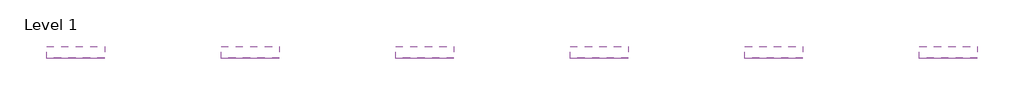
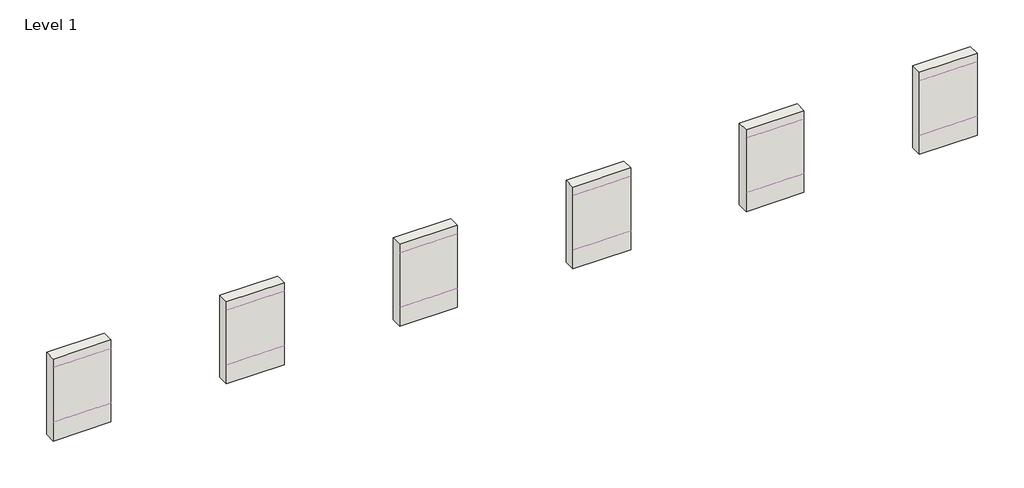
# One storey: 12 coverings, 6 walls.
"""IFC4 building model written with IfcOpenShell, lengths in millimetres."""

from ifc_helpers import new_model, si_unit, point, frame, frame_2d, origin, place, context, project, spatial, polyline, circle_curve, trimmed, segment, composite_curve, outline, extrude, element, save

model = new_model("IFC4")

# Units and contexts
model_context = context("Model", 3, world=origin())
ifc_project = project(units=[si_unit("LENGTHUNIT", "METRE", prefix="MILLI")], contexts=[model_context])

# Site, building, storey
site = spatial("IfcSite", under=ifc_project)
building = spatial("IfcBuilding", under=site)
storey = spatial("IfcBuildingStorey", under=building, Name="Level 1", Elevation=0.0)

# Coverings
placement = place(None, origin())
element("IfcCovering", 1, ObjectType="REVIGRÉS-NORDIK-RB-8X60-MATTRECT-ALMOND", at=placement, inside=storey, context=model_context, shape_type="SweptSolid", body=[
    extrude(outline(composite_curve([segment(polyline([(-6973.1153225, 4350.0), (-6983.6153225, 4350.0), (-6983.6153225, 4419.5)]), True, "CONTINUOUS"), segment(trimmed(circle_curve(frame_2d((-6973.1153225, 4419.5)), 10.5), [point((-6983.6153225, 4419.5))], [point((-6973.1153225, 4430.0))], False, "CARTESIAN"), True, "CONTINUOUS"), segment(polyline([(-6973.1153225, 4430.0), (-6973.1153225, 4350.0)]), True, "CONTINUOUS")], self_intersect=False)), frame((5092.0023157, 0.0, 0.0), z_axis=(1.0, 0.0, 0.0), x_axis=(0.0, 1.0, 0.0)), (0.0, 0.0, 1.0), 1000.0),
])
element("IfcCovering", 2, ObjectType="REVIGRÉS-NORDIK-RB-8X120-MATTRECT-ALMOND", at=placement, inside=storey, context=model_context, shape_type="SweptSolid", body=[
    extrude(outline(composite_curve([segment(polyline([(-6973.1153225, 3350.0), (-6983.6153225, 3350.0), (-6983.6153225, 3419.5)]), True, "CONTINUOUS"), segment(trimmed(circle_curve(frame_2d((-6973.1153225, 3419.5)), 10.5), [point((-6983.6153225, 3419.5))], [point((-6973.1153225, 3430.0))], False, "CARTESIAN"), True, "CONTINUOUS"), segment(polyline([(-6973.1153225, 3430.0), (-6973.1153225, 3350.0)]), True, "CONTINUOUS")], self_intersect=False)), frame((5092.0023157, 0.0, 0.0), z_axis=(1.0, 0.0, 0.0), x_axis=(0.0, 1.0, 0.0)), (0.0, 0.0, 1.0), 1000.0),
])
element("IfcCovering", 3, ObjectType="REVIGRÉS-NORDIK-RB-8X60-MATTRECT-CHERRY", at=placement, inside=storey, context=model_context, shape_type="SweptSolid", body=[
    extrude(outline(composite_curve([segment(polyline([(-6973.1153225, 4350.0), (-6983.6153225, 4350.0), (-6983.6153225, 4419.5)]), True, "CONTINUOUS"), segment(trimmed(circle_curve(frame_2d((-6973.1153225, 4419.5)), 10.5), [point((-6983.6153225, 4419.5))], [point((-6973.1153225, 4430.0))], False, "CARTESIAN"), True, "CONTINUOUS"), segment(polyline([(-6973.1153225, 4430.0), (-6973.1153225, 4350.0)]), True, "CONTINUOUS")], self_intersect=False)), frame((8092.0023157, 0.0, 0.0), z_axis=(1.0, 0.0, 0.0), x_axis=(0.0, 1.0, 0.0)), (0.0, 0.0, 1.0), 1000.0),
])
element("IfcCovering", 4, ObjectType="REVIGRÉS-NORDIK-RB-8X120-MATTRECT-CHERRY", at=placement, inside=storey, context=model_context, shape_type="SweptSolid", body=[
    extrude(outline(composite_curve([segment(polyline([(-6973.1153225, 3350.0), (-6983.6153225, 3350.0), (-6983.6153225, 3419.5)]), True, "CONTINUOUS"), segment(trimmed(circle_curve(frame_2d((-6973.1153225, 3419.5)), 10.5), [point((-6983.6153225, 3419.5))], [point((-6973.1153225, 3430.0))], False, "CARTESIAN"), True, "CONTINUOUS"), segment(polyline([(-6973.1153225, 3430.0), (-6973.1153225, 3350.0)]), True, "CONTINUOUS")], self_intersect=False)), frame((8092.0023157, 0.0, 0.0), z_axis=(1.0, 0.0, 0.0), x_axis=(0.0, 1.0, 0.0)), (0.0, 0.0, 1.0), 1000.0),
])
element("IfcCovering", 5, ObjectType="REVIGRÉS-NORDIK-RB-8X60-MATTRECT-HONEY", at=placement, inside=storey, context=model_context, shape_type="SweptSolid", body=[
    extrude(outline(composite_curve([segment(polyline([(-6973.1153225, 4350.0), (-6983.6153225, 4350.0), (-6983.6153225, 4419.5)]), True, "CONTINUOUS"), segment(trimmed(circle_curve(frame_2d((-6973.1153225, 4419.5)), 10.5), [point((-6983.6153225, 4419.5))], [point((-6973.1153225, 4430.0))], False, "CARTESIAN"), True, "CONTINUOUS"), segment(polyline([(-6973.1153225, 4430.0), (-6973.1153225, 4350.0)]), True, "CONTINUOUS")], self_intersect=False)), frame((11092.0023157, 0.0, 0.0), z_axis=(1.0, 0.0, 0.0), x_axis=(0.0, 1.0, 0.0)), (0.0, 0.0, 1.0), 1000.0),
])
element("IfcCovering", 6, ObjectType="REVIGRÉS-NORDIK-RB-8X120-MATTRECT-HONEY", at=placement, inside=storey, context=model_context, shape_type="SweptSolid", body=[
    extrude(outline(composite_curve([segment(polyline([(-6973.1153225, 3350.0), (-6983.6153225, 3350.0), (-6983.6153225, 3419.5)]), True, "CONTINUOUS"), segment(trimmed(circle_curve(frame_2d((-6973.1153225, 3419.5)), 10.5), [point((-6983.6153225, 3419.5))], [point((-6973.1153225, 3430.0))], False, "CARTESIAN"), True, "CONTINUOUS"), segment(polyline([(-6973.1153225, 3430.0), (-6973.1153225, 3350.0)]), True, "CONTINUOUS")], self_intersect=False)), frame((11092.0023157, 0.0, 0.0), z_axis=(1.0, 0.0, 0.0), x_axis=(0.0, 1.0, 0.0)), (0.0, 0.0, 1.0), 1000.0),
])
element("IfcCovering", 7, ObjectType="REVIGRÉS-NORDIK-RB-8X60-MATTRECT-TAUPE", at=placement, inside=storey, context=model_context, shape_type="SweptSolid", body=[
    extrude(outline(composite_curve([segment(polyline([(-6973.1153225, 4350.0), (-6983.6153225, 4350.0), (-6983.6153225, 4419.5)]), True, "CONTINUOUS"), segment(trimmed(circle_curve(frame_2d((-6973.1153225, 4419.5)), 10.5), [point((-6983.6153225, 4419.5))], [point((-6973.1153225, 4430.0))], False, "CARTESIAN"), True, "CONTINUOUS"), segment(polyline([(-6973.1153225, 4430.0), (-6973.1153225, 4350.0)]), True, "CONTINUOUS")], self_intersect=False)), frame((14092.0023157, 0.0, 0.0), z_axis=(1.0, 0.0, 0.0), x_axis=(0.0, 1.0, 0.0)), (0.0, 0.0, 1.0), 1000.0),
])
element("IfcCovering", 8, ObjectType="REVIGRÉS-NORDIK-RB-8X120-MATTRECT-TAUPE", at=placement, inside=storey, context=model_context, shape_type="SweptSolid", body=[
    extrude(outline(composite_curve([segment(polyline([(-6973.1153225, 3350.0), (-6983.6153225, 3350.0), (-6983.6153225, 3419.5)]), True, "CONTINUOUS"), segment(trimmed(circle_curve(frame_2d((-6973.1153225, 3419.5)), 10.5), [point((-6983.6153225, 3419.5))], [point((-6973.1153225, 3430.0))], False, "CARTESIAN"), True, "CONTINUOUS"), segment(polyline([(-6973.1153225, 3430.0), (-6973.1153225, 3350.0)]), True, "CONTINUOUS")], self_intersect=False)), frame((14092.0023157, 0.0, 0.0), z_axis=(1.0, 0.0, 0.0), x_axis=(0.0, 1.0, 0.0)), (0.0, 0.0, 1.0), 1000.0),
])
element("IfcCovering", 9, ObjectType="REVIGRÉS-NORDIK-RB-8X60-MATTRECT-WALNUT", at=placement, inside=storey, context=model_context, shape_type="SweptSolid", body=[
    extrude(outline(composite_curve([segment(polyline([(-6973.1153225, 4350.0), (-6983.6153225, 4350.0), (-6983.6153225, 4419.5)]), True, "CONTINUOUS"), segment(trimmed(circle_curve(frame_2d((-6973.1153225, 4419.5)), 10.5), [point((-6983.6153225, 4419.5))], [point((-6973.1153225, 4430.0))], False, "CARTESIAN"), True, "CONTINUOUS"), segment(polyline([(-6973.1153225, 4430.0), (-6973.1153225, 4350.0)]), True, "CONTINUOUS")], self_intersect=False)), frame((17092.0023157, 0.0, 0.0), z_axis=(1.0, 0.0, 0.0), x_axis=(0.0, 1.0, 0.0)), (0.0, 0.0, 1.0), 1000.0),
])
element("IfcCovering", 10, ObjectType="REVIGRÉS-NORDIK-RB-8X120-MATTRECT-WALNUT", at=placement, inside=storey, context=model_context, shape_type="SweptSolid", body=[
    extrude(outline(composite_curve([segment(polyline([(-6973.1153225, 3350.0), (-6983.6153225, 3350.0), (-6983.6153225, 3419.5)]), True, "CONTINUOUS"), segment(trimmed(circle_curve(frame_2d((-6973.1153225, 3419.5)), 10.5), [point((-6983.6153225, 3419.5))], [point((-6973.1153225, 3430.0))], False, "CARTESIAN"), True, "CONTINUOUS"), segment(polyline([(-6973.1153225, 3430.0), (-6973.1153225, 3350.0)]), True, "CONTINUOUS")], self_intersect=False)), frame((17092.0023157, 0.0, 0.0), z_axis=(1.0, 0.0, 0.0), x_axis=(0.0, 1.0, 0.0)), (0.0, 0.0, 1.0), 1000.0),
])
element("IfcCovering", 11, ObjectType="REVIGRÉS-NORDIK-RB-8X60-MATTRECT-WHITE", at=placement, inside=storey, context=model_context, shape_type="SweptSolid", body=[
    extrude(outline(composite_curve([segment(polyline([(-6973.1153225, 4350.0), (-6983.6153225, 4350.0), (-6983.6153225, 4419.5)]), True, "CONTINUOUS"), segment(trimmed(circle_curve(frame_2d((-6973.1153225, 4419.5)), 10.5), [point((-6983.6153225, 4419.5))], [point((-6973.1153225, 4430.0))], False, "CARTESIAN"), True, "CONTINUOUS"), segment(polyline([(-6973.1153225, 4430.0), (-6973.1153225, 4350.0)]), True, "CONTINUOUS")], self_intersect=False)), frame((20092.0023157, 0.0, 0.0), z_axis=(1.0, 0.0, 0.0), x_axis=(0.0, 1.0, 0.0)), (0.0, 0.0, 1.0), 1000.0),
])
element("IfcCovering", 12, ObjectType="REVIGRÉS-NORDIK-RB-8X120-MATTRECT-WHITE", at=placement, inside=storey, context=model_context, shape_type="SweptSolid", body=[
    extrude(outline(composite_curve([segment(polyline([(-6973.1153225, 3350.0), (-6983.6153225, 3350.0), (-6983.6153225, 3419.5)]), True, "CONTINUOUS"), segment(trimmed(circle_curve(frame_2d((-6973.1153225, 3419.5)), 10.5), [point((-6983.6153225, 3419.5))], [point((-6973.1153225, 3430.0))], False, "CARTESIAN"), True, "CONTINUOUS"), segment(polyline([(-6973.1153225, 3430.0), (-6973.1153225, 3350.0)]), True, "CONTINUOUS")], self_intersect=False)), frame((20092.0023157, 0.0, 0.0), z_axis=(1.0, 0.0, 0.0), x_axis=(0.0, 1.0, 0.0)), (0.0, 0.0, 1.0), 1000.0),
])

# Walls
element("IfcWall", 13, ObjectType="Wall 1", at=placement, inside=storey, context=model_context, shape_type="SweptSolid", body=[
    extrude(outline(polyline([(6092.0023157, -6973.1153225), (5092.0023157, -6973.1153225), (5092.0023157, -6773.1153225), (6092.0023157, -6773.1153225), (6092.0023157, -6973.1153225)])), frame((0.0, 0.0, 3000.0), z_axis=(0.0, 0.0, 1.0), x_axis=(1.0, 0.0, 0.0)), (0.0, 0.0, 1.0), 1500.0),
])
element("IfcWall", 14, ObjectType="Wall 1", at=placement, inside=storey, context=model_context, shape_type="SweptSolid", body=[
    extrude(outline(polyline([(9092.0023157, -6973.1153225), (8092.0023157, -6973.1153225), (8092.0023157, -6773.1153225), (9092.0023157, -6773.1153225), (9092.0023157, -6973.1153225)])), frame((0.0, 0.0, 3000.0), z_axis=(0.0, 0.0, 1.0), x_axis=(1.0, 0.0, 0.0)), (0.0, 0.0, 1.0), 1500.0),
])
element("IfcWall", 15, ObjectType="Wall 1", at=placement, inside=storey, context=model_context, shape_type="SweptSolid", body=[
    extrude(outline(polyline([(12092.0023157, -6973.1153225), (11092.0023157, -6973.1153225), (11092.0023157, -6773.1153225), (12092.0023157, -6773.1153225), (12092.0023157, -6973.1153225)])), frame((0.0, 0.0, 3000.0), z_axis=(0.0, 0.0, 1.0), x_axis=(1.0, 0.0, 0.0)), (0.0, 0.0, 1.0), 1500.0),
])
element("IfcWall", 16, ObjectType="Wall 1", at=placement, inside=storey, context=model_context, shape_type="SweptSolid", body=[
    extrude(outline(polyline([(15092.0023157, -6973.1153225), (14092.0023157, -6973.1153225), (14092.0023157, -6773.1153225), (15092.0023157, -6773.1153225), (15092.0023157, -6973.1153225)])), frame((0.0, 0.0, 3000.0), z_axis=(0.0, 0.0, 1.0), x_axis=(1.0, 0.0, 0.0)), (0.0, 0.0, 1.0), 1500.0),
])
element("IfcWall", 17, ObjectType="Wall 1", at=placement, inside=storey, context=model_context, shape_type="SweptSolid", body=[
    extrude(outline(polyline([(18092.0023157, -6973.1153225), (17092.0023157, -6973.1153225), (17092.0023157, -6773.1153225), (18092.0023157, -6773.1153225), (18092.0023157, -6973.1153225)])), frame((0.0, 0.0, 3000.0), z_axis=(0.0, 0.0, 1.0), x_axis=(1.0, 0.0, 0.0)), (0.0, 0.0, 1.0), 1500.0),
])
element("IfcWall", 18, ObjectType="Wall 1", at=placement, inside=storey, context=model_context, shape_type="SweptSolid", body=[
    extrude(outline(polyline([(21092.0023157, -6973.1153225), (20092.0023157, -6973.1153225), (20092.0023157, -6773.1153225), (21092.0023157, -6773.1153225), (21092.0023157, -6973.1153225)])), frame((0.0, 0.0, 3000.0), z_axis=(0.0, 0.0, 1.0), x_axis=(1.0, 0.0, 0.0)), (0.0, 0.0, 1.0), 1500.0),
])

save(model, "model.ifc")
